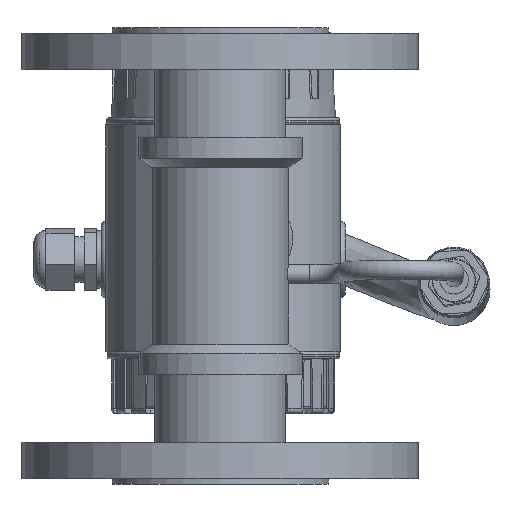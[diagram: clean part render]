
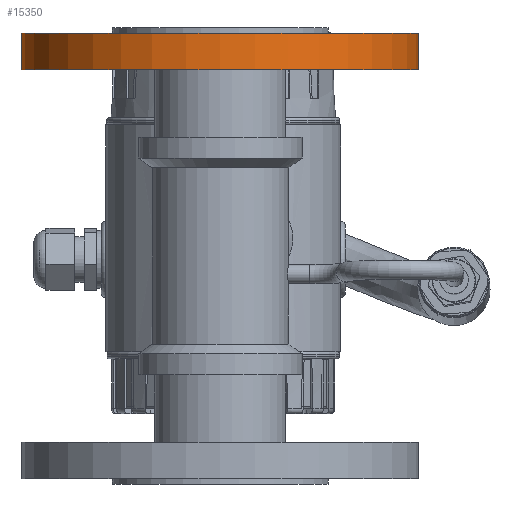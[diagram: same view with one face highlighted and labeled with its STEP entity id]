
A CAD part, front view. The second image highlights one B-rep face of the part: STEP entity #15350.
In plain terms, the highlighted cylindrical face has radius 82.5 mm (diameter 165 mm), a full revolution.
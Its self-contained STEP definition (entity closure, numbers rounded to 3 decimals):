
#2171=LINE('',#29716,#3317);
#3317=VECTOR('',#21518,82.5);
#3654=CYLINDRICAL_SURFACE('',#17089,82.5);
#4484=FACE_OUTER_BOUND('',#5466,.T.);
#5466=EDGE_LOOP('',(#13904,#13905,#13906,#13907));
#6246=CIRCLE('',#17090,82.5);
#6247=CIRCLE('',#17091,82.5);
#7585=VERTEX_POINT('',#29713);
#7586=VERTEX_POINT('',#29715);
#9724=EDGE_CURVE('',#7585,#7585,#6246,.T.);
#9725=EDGE_CURVE('',#7585,#7586,#2171,.T.);
#9726=EDGE_CURVE('',#7586,#7586,#6247,.T.);
#13904=ORIENTED_EDGE('',*,*,#9724,.F.);
#13905=ORIENTED_EDGE('',*,*,#9725,.T.);
#13906=ORIENTED_EDGE('',*,*,#9726,.F.);
#13907=ORIENTED_EDGE('',*,*,#9725,.F.);
#15350=ADVANCED_FACE('',(#4484),#3654,.T.);
#17089=AXIS2_PLACEMENT_3D('',#29712,#21514,#21515);
#17090=AXIS2_PLACEMENT_3D('',#29714,#21516,#21517);
#17091=AXIS2_PLACEMENT_3D('',#29717,#21519,#21520);
#21514=DIRECTION('center_axis',(0.,0.,1.));
#21515=DIRECTION('ref_axis',(-1.,0.,0.));
#21516=DIRECTION('center_axis',(0.,0.,
1.));
#21517=DIRECTION('ref_axis',(-1.,0.,0.));
#21518=DIRECTION('',(0.,0.,-1.));
#21519=DIRECTION('center_axis',(0.,0.,
-1.));
#21520=DIRECTION('ref_axis',(-1.,0.,0.));
#29712=CARTESIAN_POINT('Origin',(-376.278,195.913,239.323));
#29713=CARTESIAN_POINT('',(-293.778,195.912,254.365));
#29714=CARTESIAN_POINT('Origin',(-376.278,195.912,254.365));
#29715=CARTESIAN_POINT('',(-293.778,195.913,239.323));
#29716=CARTESIAN_POINT('',(-293.778,195.913,239.323));
#29717=CARTESIAN_POINT('Origin',(-376.278,195.913,239.323));
